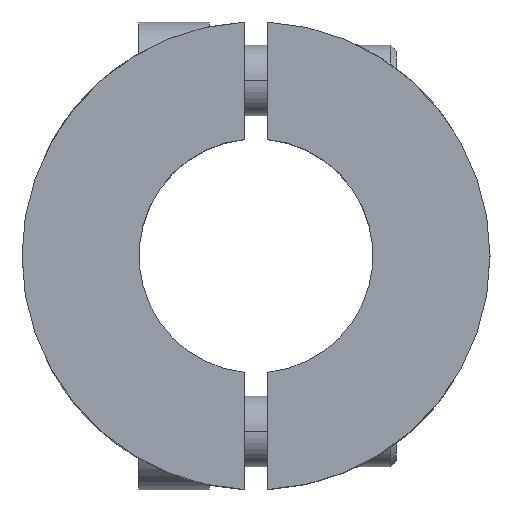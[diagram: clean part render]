
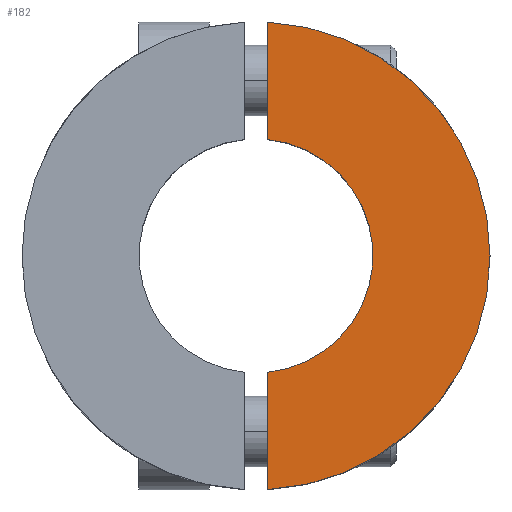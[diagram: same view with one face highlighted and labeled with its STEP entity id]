
A CAD part, top view. The second image highlights one B-rep face of the part: STEP entity #182.
In plain terms, the highlighted planar face has unit normal (0, 0, 1).
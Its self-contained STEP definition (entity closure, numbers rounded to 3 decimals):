
#21 = VERTEX_POINT ( 'NONE', #1491 ) ;
#29 = VERTEX_POINT ( 'NONE', #2950 ) ;
#77 = PLANE ( 'NONE',  #2039 ) ;
#182 = ADVANCED_FACE ( 'NONE', ( #3096 ), #77, .T. ) ;
#315 = DIRECTION ( 'NONE',  ( 0., 0., 1. ) ) ;
#340 = CARTESIAN_POINT ( 'NONE',  ( 1., 9.95, 7.5 ) ) ;
#362 = VERTEX_POINT ( 'NONE', #340 ) ;
#419 = CARTESIAN_POINT ( 'NONE',  ( 0., 0., 7.5 ) ) ;
#485 = DIRECTION ( 'NONE',  ( 0., -1., 0. ) ) ;
#552 = DIRECTION ( 'NONE',  ( 0., -1., 0. ) ) ;
#568 = AXIS2_PLACEMENT_3D ( 'NONE', #1651, #950, #3099 ) ;
#669 = ORIENTED_EDGE ( 'NONE', *, *, #1446, .T. ) ;
#736 = ORIENTED_EDGE ( 'NONE', *, *, #1821, .T. ) ;
#838 = CARTESIAN_POINT ( 'NONE',  ( 1., -19.975, 7.5 ) ) ;
#950 = DIRECTION ( 'NONE',  ( 0., 0., 1. ) ) ;
#1193 = VERTEX_POINT ( 'NONE', #838 ) ;
#1236 = ORIENTED_EDGE ( 'NONE', *, *, #2741, .T. ) ;
#1279 = CARTESIAN_POINT ( 'NONE',  ( 1., -9.95, 7.5 ) ) ;
#1301 = LINE ( 'NONE', #1279, #1337 ) ;
#1336 = LINE ( 'NONE', #1901, #1808 ) ;
#1337 = VECTOR ( 'NONE', #552, 1000. ) ;
#1422 = CIRCLE ( 'NONE', #1516, 10. ) ;
#1446 = EDGE_CURVE ( 'NONE', #29, #1193, #1301, .T. ) ;
#1491 = CARTESIAN_POINT ( 'NONE',  ( 1., 19.975, 7.5 ) ) ;
#1516 = AXIS2_PLACEMENT_3D ( 'NONE', #419, #1840, #2815 ) ;
#1651 = CARTESIAN_POINT ( 'NONE',  ( 0., 0., 7.5 ) ) ;
#1808 = VECTOR ( 'NONE', #485, 1000. ) ;
#1821 = EDGE_CURVE ( 'NONE', #1193, #21, #2970, .T. ) ;
#1840 = DIRECTION ( 'NONE',  ( 0., 0., -1. ) ) ;
#1901 = CARTESIAN_POINT ( 'NONE',  ( 1., 19.975, 7.5 ) ) ;
#1981 = DIRECTION ( 'NONE',  ( 1., 0., 0. ) ) ;
#2039 = AXIS2_PLACEMENT_3D ( 'NONE', #2706, #315, #1981 ) ;
#2410 = EDGE_LOOP ( 'NONE', ( #736, #1236, #2610, #669 ) ) ;
#2470 = EDGE_CURVE ( 'NONE', #362, #29, #1422, .T. ) ;
#2610 = ORIENTED_EDGE ( 'NONE', *, *, #2470, .T. ) ;
#2706 = CARTESIAN_POINT ( 'NONE',  ( 0., 0., 7.5 ) ) ;
#2741 = EDGE_CURVE ( 'NONE', #21, #362, #1336, .T. ) ;
#2815 = DIRECTION ( 'NONE',  ( 0.1, 0.995, 0. ) ) ;
#2950 = CARTESIAN_POINT ( 'NONE',  ( 1., -9.95, 7.5 ) ) ;
#2970 = CIRCLE ( 'NONE', #568, 20. ) ;
#3096 = FACE_OUTER_BOUND ( 'NONE', #2410, .T. ) ;
#3099 = DIRECTION ( 'NONE',  ( 0.05, -0.999, 0. ) ) ;
